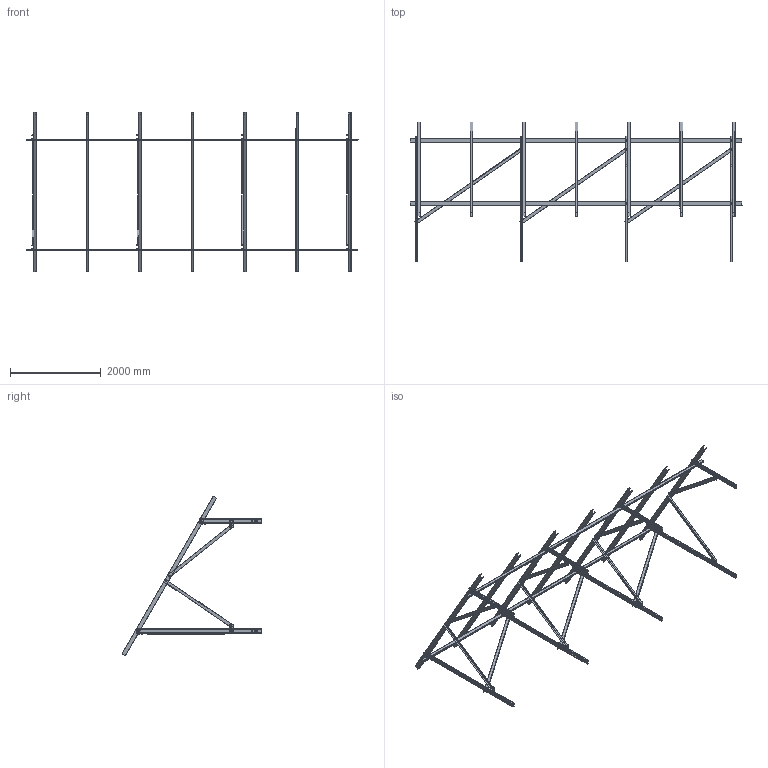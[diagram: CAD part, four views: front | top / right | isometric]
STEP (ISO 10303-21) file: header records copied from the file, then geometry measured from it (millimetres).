
FILE_DESCRIPTION (( 'STEP AP203' ), '1' );
FILE_NAME ('52P-615w-bifacial.STEP', '2026-09-24T10:50:38', ( '' ), ( '' ), 'SwSTEP 2.0', 'SolidWorks 2025', '' );
FILE_SCHEMA (( 'CONFIG_CONTROL_DESIGN' ));
Length unit declared in the file: millimetre
Products named in the file (1): 52P-615w-bifacial
Bounding box: 7304 x 3077.57 x 3509.1 mm (x, y, z)
Volume: 29706800.3 mm3; surface area: 29801304.4 mm2
Topology: 36 solids, 36 shells, 1102 faces, 3090 edges, 2060 vertices
Faces by surface type: plane 648, cylinder 454
Entity records: 36133 total; most frequent: CARTESIAN_POINT 6253, DIRECTION 6204, ORIENTED_EDGE 6180, EDGE_CURVE 3090, LINE 2182, VECTOR 2182, VERTEX_POINT 2060, AXIS2_PLACEMENT_3D 2011
